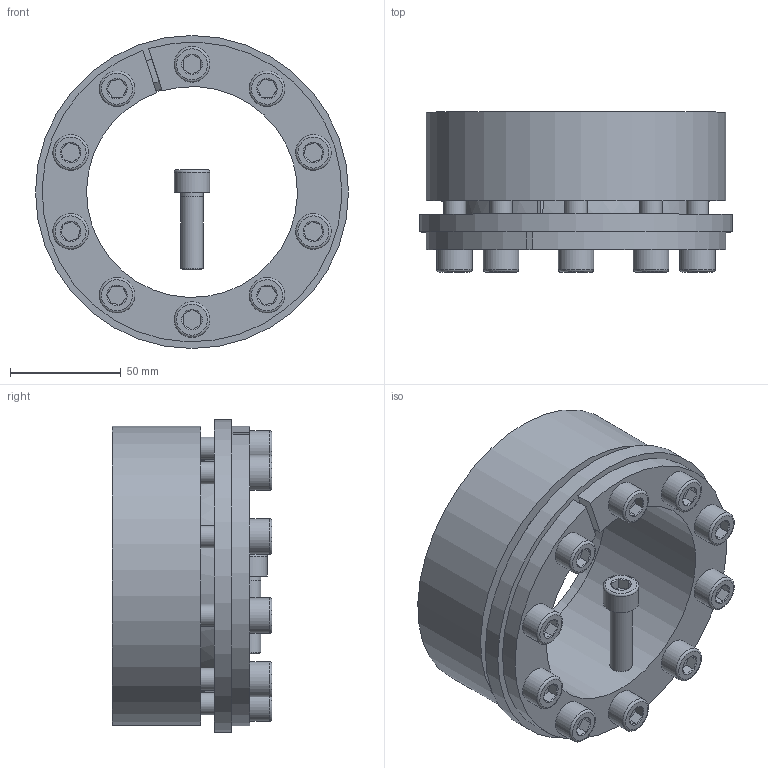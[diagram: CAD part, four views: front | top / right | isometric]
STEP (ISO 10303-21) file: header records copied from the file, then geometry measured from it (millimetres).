
FILE_DESCRIPTION( ( 'Unknown' ), '1' );
FILE_NAME( 'C:/Dokumente und Einstellungen/Sven/Desktop/homepage/cad - homepage/KBS71/KBS 71 - 95 x 135.stp', 'Unknown', ( 'Unknown' ), ( 'Unknown' ), 'XStep 1.0', 'Unknown', ' ' );
FILE_SCHEMA( ( 'automotive_design' ) );
Length unit declared in the file: millimetre
Products named in the file (3): Assem1; KBS 71 - 95 x 135; ISO EN DIN 4762 M10x35
Bounding box: 141 x 72 x 141 mm (x, y, z)
Volume: 800725.7 mm3; surface area: 202580 mm2
Topology: 13 solids, 13 shells, 363 faces, 781 edges, 466 vertices
Faces by surface type: plane 164, cylinder 92, cone 85, torus 22
Full cylindrical faces by diameter (mm): 9 x11, 10 x62, 16 x11, 141 x2
Entity records: 2510 total; most frequent: CARTESIAN_POINT 389, DIRECTION 384, ORIENTED_EDGE 292, AXIS2_PLACEMENT_3D 167, EDGE_CURVE 146, EDGE_LOOP 136, VERTEX_POINT 104, FACE_OUTER_BOUND 96
